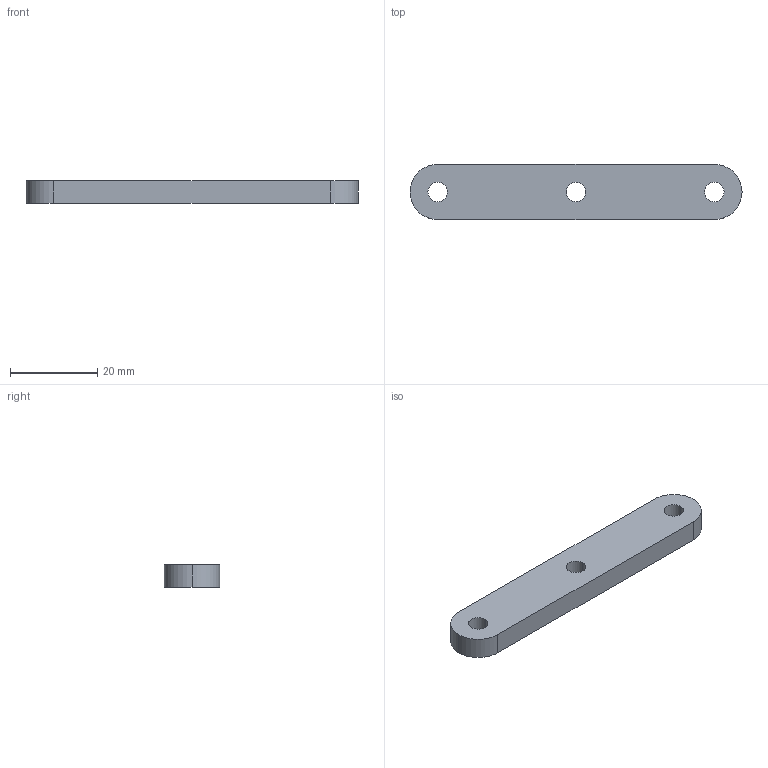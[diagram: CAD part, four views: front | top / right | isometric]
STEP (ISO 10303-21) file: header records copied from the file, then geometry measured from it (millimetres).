
FILE_DESCRIPTION (( 'STEP AP203' ), '1' );
FILE_NAME ('FDPCK-.5PULTRUDED-LINK3HOLE.step', '2019-09-11T18:23:38', ( 'ydmin' ), ( '' ), 'SwSTEP 2.0', 'SolidWorks 2017', '' );
FILE_SCHEMA (( 'CONFIG_CONTROL_DESIGN' ));
Length unit declared in the file: inch
Products named in the file (1): FDPCK-.5PULTRUDED-LINK3HOLE
Bounding box: 76.2 x 12.7 x 5.11 mm (x, y, z)
Volume: 4520.8 mm3; surface area: 2839.4 mm2
Topology: 1 solids, 1 shells, 13 faces, 33 edges, 22 vertices
Faces by surface type: cylinder 9, plane 4
Entity records: 496 total; most frequent: DIRECTION 79, CARTESIAN_POINT 69, ORIENTED_EDGE 66, EDGE_CURVE 33, AXIS2_PLACEMENT_3D 32, VERTEX_POINT 22, EDGE_LOOP 19, CIRCLE 18
